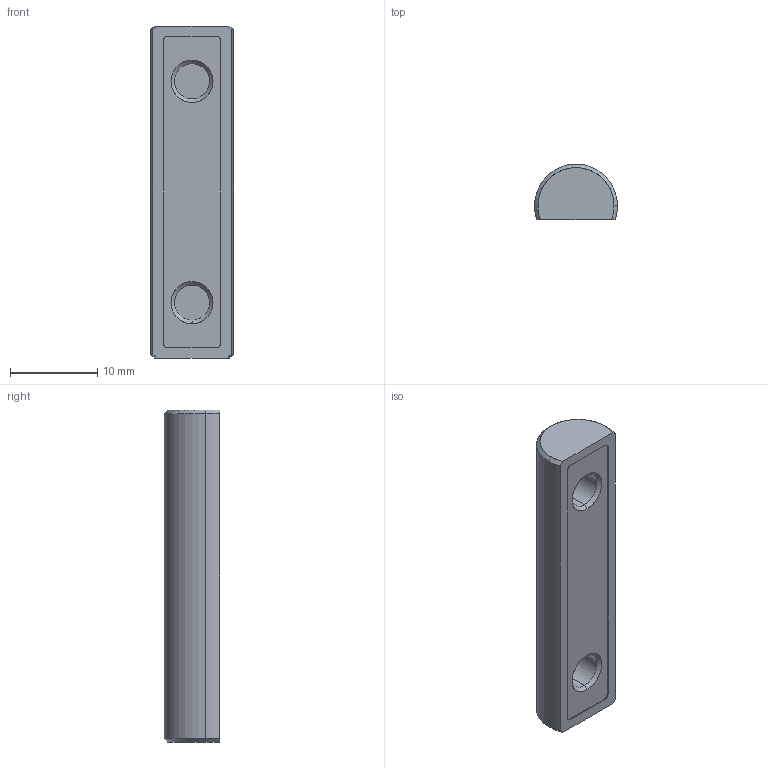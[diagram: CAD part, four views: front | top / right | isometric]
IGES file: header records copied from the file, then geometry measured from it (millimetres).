
Start section: SolidWorks IGES file using analytic representation for surfaces
Global section: file name: D:\Solid_parts\MECHeDESIGN\Bal-Tec\Catalog 105-A\Distribution\IGES\375-TCR-T.IGS; native system: SolidWorks 2005 by SolidWorks Corporation; preprocessor: SolidWorks 2005 by SolidWorks Corporation; author: rvillegas; date: 061205.184526; units: inch
Bounding box: 9.53 x 6.35 x 38.1 mm (x, y, z)
Surface area: 1258.1 mm2 (no closed solid volume)
Topology: 0 solids, 0 shells, 31 faces, 318 edges, 318 vertices
Faces by surface type: revolution 21, bspline 10
